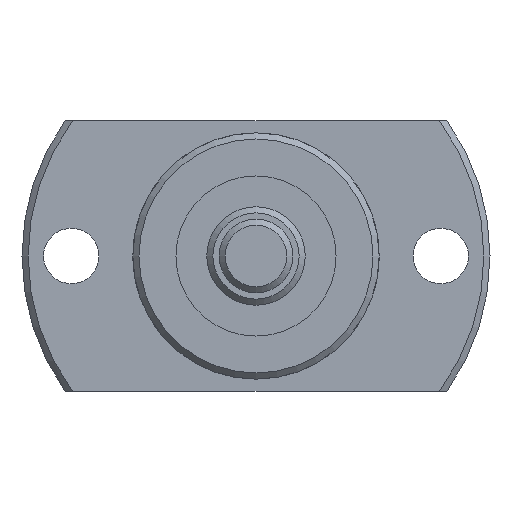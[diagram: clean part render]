
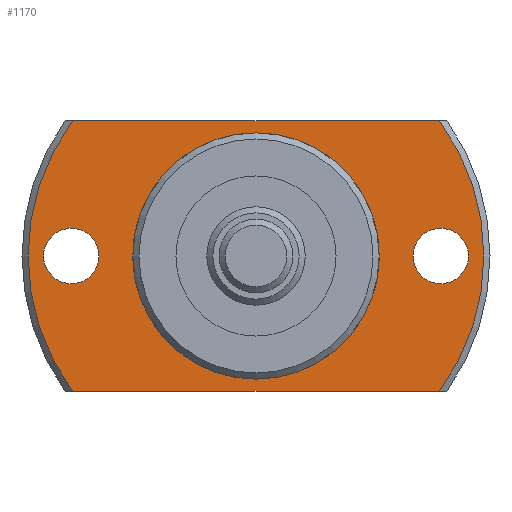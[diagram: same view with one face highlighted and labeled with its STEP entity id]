
A CAD part, left-side view. The second image highlights one B-rep face of the part: STEP entity #1170.
In plain terms, the highlighted planar face has unit normal (-1, 0, 0).
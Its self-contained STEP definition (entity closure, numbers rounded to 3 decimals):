
#121=CIRCLE('',#1303,9.85);
#124=CIRCLE('',#1307,18.5);
#130=CIRCLE('',#1318,2.25);
#131=CIRCLE('',#1319,2.25);
#132=CIRCLE('',#1320,18.5);
#274=ORIENTED_EDGE('',*,*,#541,.T.);
#275=ORIENTED_EDGE('',*,*,#542,.T.);
#276=ORIENTED_EDGE('',*,*,#530,.F.);
#277=ORIENTED_EDGE('',*,*,#543,.T.);
#278=ORIENTED_EDGE('',*,*,#544,.F.);
#279=ORIENTED_EDGE('',*,*,#545,.T.);
#280=ORIENTED_EDGE('',*,*,#524,.T.);
#524=EDGE_CURVE('',#670,#670,#121,.T.);
#530=EDGE_CURVE('',#675,#676,#124,.T.);
#541=EDGE_CURVE('',#685,#685,#130,.T.);
#542=EDGE_CURVE('',#686,#686,#131,.T.);
#543=EDGE_CURVE('',#675,#687,#760,.T.);
#544=EDGE_CURVE('',#688,#687,#132,.T.);
#545=EDGE_CURVE('',#688,#676,#761,.T.);
#670=VERTEX_POINT('',#1916);
#675=VERTEX_POINT('',#1930);
#676=VERTEX_POINT('',#1932);
#685=VERTEX_POINT('',#1966);
#686=VERTEX_POINT('',#1968);
#687=VERTEX_POINT('',#1970);
#688=VERTEX_POINT('',#1972);
#760=LINE('',#1969,#820);
#761=LINE('',#1973,#821);
#820=VECTOR('',#1583,1000.);
#821=VECTOR('',#1586,1000.);
#914=EDGE_LOOP('',(#274));
#915=EDGE_LOOP('',(#275));
#916=EDGE_LOOP('',(#276,#277,#278,#279));
#917=EDGE_LOOP('',(#280));
#1034=FACE_BOUND('',#914,.T.);
#1035=FACE_BOUND('',#915,.T.);
#1036=FACE_BOUND('',#916,.T.);
#1037=FACE_BOUND('',#917,.T.);
#1111=PLANE('',#1317);
#1170=ADVANCED_FACE('',(#1034,#1035,#1036,#1037),#1111,.F.);
#1303=AXIS2_PLACEMENT_3D('',#1915,#1545,#1546);
#1307=AXIS2_PLACEMENT_3D('',#1931,#1555,#1556);
#1317=AXIS2_PLACEMENT_3D('',#1964,#1577,#1578);
#1318=AXIS2_PLACEMENT_3D('',#1965,#1579,#1580);
#1319=AXIS2_PLACEMENT_3D('',#1967,#1581,#1582);
#1320=AXIS2_PLACEMENT_3D('',#1971,#1584,#1585);
#1545=DIRECTION('',(1.,0.,0.));
#1546=DIRECTION('',(0.,0.,-1.));
#1555=DIRECTION('',(1.,0.,0.));
#1556=DIRECTION('',(0.,0.,-1.));
#1577=DIRECTION('',(1.,0.,0.));
#1578=DIRECTION('',(0.,0.,-1.));
#1579=DIRECTION('',(1.,0.,0.));
#1580=DIRECTION('',(0.,0.,-1.));
#1581=DIRECTION('',(1.,0.,0.));
#1582=DIRECTION('',(0.,0.,-1.));
#1583=DIRECTION('',(0.,-1.,0.));
#1584=DIRECTION('',(1.,0.,0.));
#1585=DIRECTION('',(0.,0.,-1.));
#1586=DIRECTION('',(0.,1.,0.));
#1915=CARTESIAN_POINT('',(19.,0.,0.));
#1916=CARTESIAN_POINT('',(19.,0.,-9.85));
#1930=CARTESIAN_POINT('',(19.,14.874,-11.));
#1931=CARTESIAN_POINT('',(19.,0.,0.));
#1932=CARTESIAN_POINT('',(19.,14.874,11.));
#1964=CARTESIAN_POINT('',(19.,9.85,0.));
#1965=CARTESIAN_POINT('',(19.,-15.,0.));
#1966=CARTESIAN_POINT('',(19.,-15.,-2.25));
#1967=CARTESIAN_POINT('',(19.,15.,0.));
#1968=CARTESIAN_POINT('',(19.,15.,-2.25));
#1969=CARTESIAN_POINT('',(19.,9.85,-11.));
#1970=CARTESIAN_POINT('',(19.,-14.874,-11.));
#1971=CARTESIAN_POINT('',(19.,0.,0.));
#1972=CARTESIAN_POINT('',(19.,-14.874,11.));
#1973=CARTESIAN_POINT('',(19.,9.85,11.));
